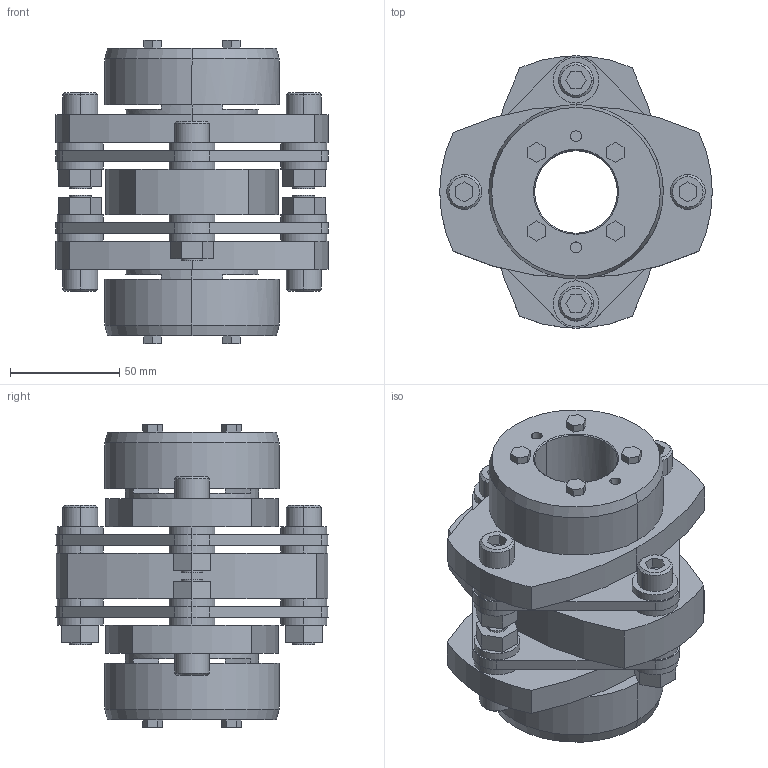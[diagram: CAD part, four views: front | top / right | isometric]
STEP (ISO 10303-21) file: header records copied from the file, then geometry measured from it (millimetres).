
FILE_DESCRIPTION((''),'2;1');
FILE_NAME('LCD-125T7-38×38.stp','2011-09-07T10:19:52',(''),(''),'AutoCAD STEP 2000i','AutoCAD 2000i',', , ');
FILE_SCHEMA(('CONFIG_CONTROL_DESIGN'));
Length unit declared in the file: millimetre
Products named in the file (8): LCD-125T7-38×38; 忣兜1; LC125T7-T038-1; LC125T7-T038; LC125T7-T035; LC125T7-T032-1; LC125T7-T032; LCD125-ITA
Assembly tree (7 placements, depth 2):
  LCD-125T7-38×38
    忣兜1
    LC125T7-T038-1
    LC125T7-T038
    LC125T7-T035
    LC125T7-T032-1
    LC125T7-T032
    LCD125-ITA
Bounding box: 125 x 124.91 x 139 mm (x, y, z)
Volume: 646835.4 mm3; surface area: 136945.9 mm2
Topology: 1 solids, 1 shells, 334 faces, 818 edges, 538 vertices
Faces by surface type: plane 190, cylinder 120, cone 24
Entity records: 10113 total; most frequent: DIRECTION 1784, CARTESIAN_POINT 1698, ORIENTED_EDGE 1636, EDGE_CURVE 818, AXIS2_PLACEMENT_3D 624, VERTEX_POINT 538, VECTOR 536, LINE 536
